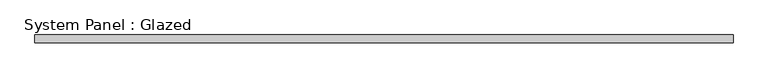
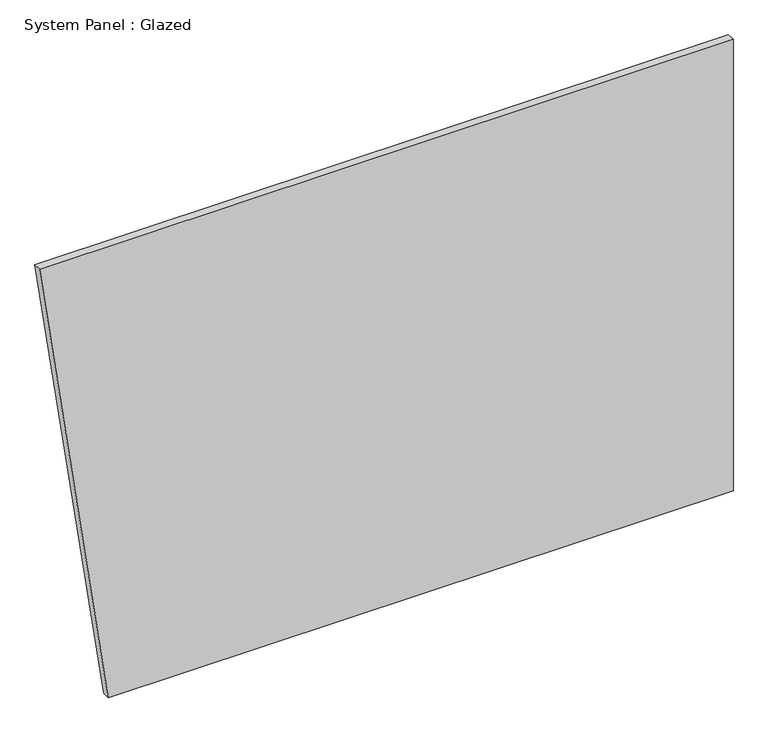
"""IFC4 building model written with IfcOpenShell, lengths in millimetres: plate geometry, System Panel : Glazed."""

from ifc_helpers import new_model, si_unit, frame, origin, place, context, project, spatial, polyline, outline, extrude, source, transform, mapped, element, save


def system_panel_glazed_cb80e230(model_context):
    return source(origin(), model_context, "Body", "SweptSolid", [
        extrude(outline(polyline([(0.0, -888.0863311), (0.0, 1107.3669066), (1524.0, 1107.3669066), (1524.0, -1107.3669066), (0.0, -888.0863311)])), frame((0.0, 19.05, 0.0), z_axis=(0.0, 1.0, 0.0), x_axis=(0.0, 0.0, 1.0)), (0.0, 0.0, 1.0), 25.4),
    ])


if __name__ == "__main__":
    model = new_model("IFC4")
    model_context = context("Model", 3, world=origin())
    ifc_project = project(units=[si_unit("LENGTHUNIT", "METRE", prefix="MILLI")], contexts=[model_context])
    site = spatial("IfcSite", under=ifc_project)
    building = spatial("IfcBuilding", under=site)
    placement = place(None, origin())
    system_panel_glazed_shape = system_panel_glazed_cb80e230(model_context)
    element("IfcPlate", 1, ObjectType="System Panel : Glazed", at=placement, inside=building, context=model_context, shape_type="MappedRepresentation", body=[
        mapped(system_panel_glazed_shape, transform((0.0, 0.0, 0.0), x_axis=(1.0, 0.0, 0.0), y_axis=(0.0, 1.0, 0.0), z_axis=(0.0, 0.0, 1.0))),
    ])
    save(model, "model.ifc")
